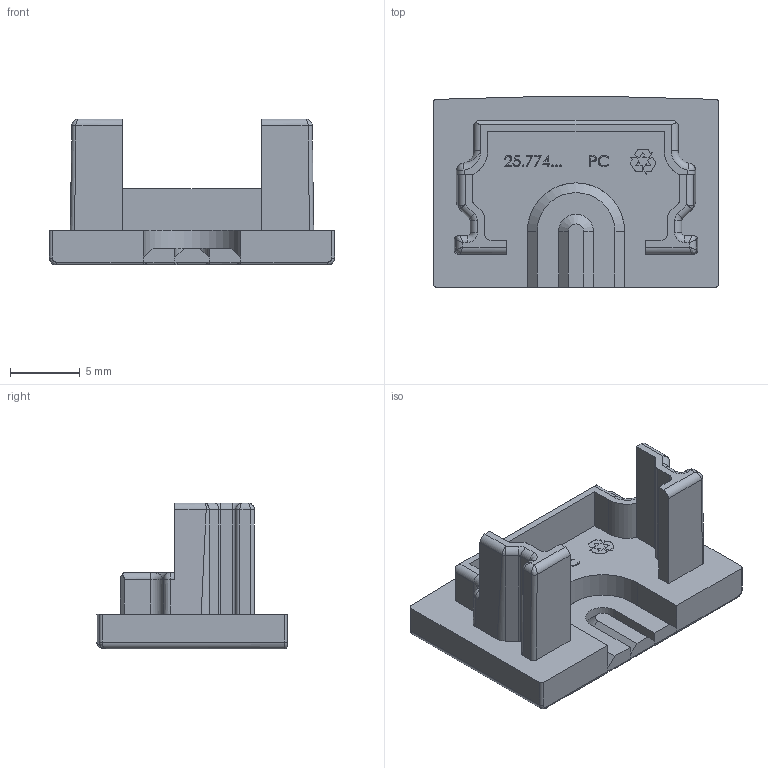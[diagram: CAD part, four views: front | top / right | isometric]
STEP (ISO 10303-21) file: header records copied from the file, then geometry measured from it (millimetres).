
FILE_DESCRIPTION (( 'STEP AP203' ), '1' );
FILE_NAME ('Endkappen_ChannelLine_D2_24.STEP', '2024-11-29T05:15:32', ( '' ), ( '' ), 'SwSTEP 2.0', 'SolidWorks 2023', '' );
FILE_SCHEMA (( 'CONFIG_CONTROL_DESIGN' ));
Length unit declared in the file: millimetre
Products named in the file (1): Endkappen_ChannelLine_D2_24
Bounding box: 20.5 x 13.69 x 10.5 mm (x, y, z)
Volume: 830.9 mm3; surface area: 1191.7 mm2
Topology: 1 solids, 1 shells, 284 faces, 748 edges, 475 vertices
Faces by surface type: plane 154, bspline 61, cylinder 53, torus 10, cone 4, sphere 2
Entity records: 11134 total; most frequent: CARTESIAN_POINT 4472, ORIENTED_EDGE 1480, DIRECTION 1175, EDGE_CURVE 740, LINE 503, VECTOR 503, VERTEX_POINT 475, AXIS2_PLACEMENT_3D 336
